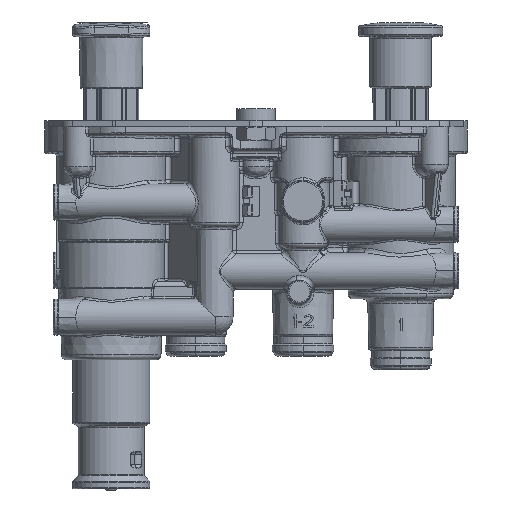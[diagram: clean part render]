
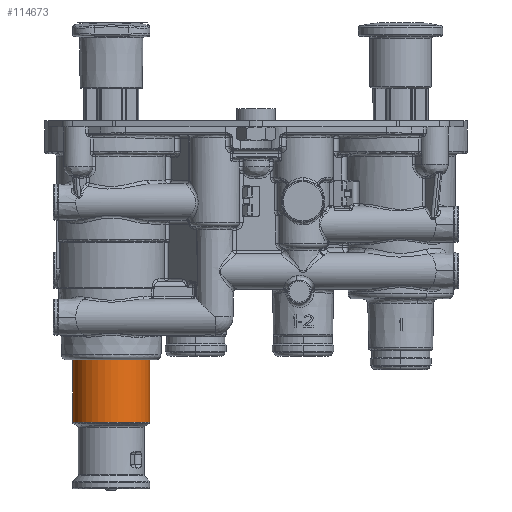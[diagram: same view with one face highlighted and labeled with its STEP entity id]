
A CAD part, front view. The second image highlights one B-rep face of the part: STEP entity #114673.
In plain terms, the highlighted cylindrical face has radius 16 mm (diameter 32 mm), a partial arc.
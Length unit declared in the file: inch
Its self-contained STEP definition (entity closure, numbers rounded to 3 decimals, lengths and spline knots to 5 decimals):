
#24946=DIRECTION('',(0.,0.,-1.));
#24947=VECTOR('',#24946,1.02156);
#24948=CARTESIAN_POINT('',(-2.99213,0.,-3.86575));
#24949=LINE('',#24948,#24947);
#24955=CARTESIAN_POINT('',(-2.3622,0.,-3.86575));
#24956=DIRECTION('',(0.,0.,-1.));
#24957=DIRECTION('',(1.,0.,0.));
#24958=AXIS2_PLACEMENT_3D('',#24955,#24956,#24957);
#24960=DIRECTION('',(0.,0.,-1.));
#24961=VECTOR('',#24960,1.02156);
#24962=CARTESIAN_POINT('',(-1.73228,0.,
-3.86575));
#24963=LINE('',#24962,#24961);
#24964=CARTESIAN_POINT('',(-2.3622,0.,-4.88731));
#24965=DIRECTION('',(0.,0.,-1.));
#24966=DIRECTION('',(1.,0.,0.));
#24967=AXIS2_PLACEMENT_3D('',#24964,#24965,#24966);
#58609=CARTESIAN_POINT('',(-2.99213,0.,
-4.88731));
#58611=VERTEX_POINT('',#58609);
#58613=CARTESIAN_POINT('',(-1.73228,0.,
-4.88731));
#58615=VERTEX_POINT('',#58613);
#62795=CARTESIAN_POINT('',(-2.99213,0.,-3.86575));
#62796=CARTESIAN_POINT('',(-1.73228,0.,
-3.86575));
#62797=VERTEX_POINT('',#62795);
#62798=VERTEX_POINT('',#62796);
#114661=CARTESIAN_POINT('',(-2.3622,0.,-3.05787));
#114662=DIRECTION('',(0.,0.,-1.));
#114663=DIRECTION('',(-1.,0.,0.));
#114664=AXIS2_PLACEMENT_3D('',#114661,#114662,#114663);
#114665=CYLINDRICAL_SURFACE('',#114664,0.62992);
#114666=ORIENTED_EDGE('',*,*,#114629,.F.);
#114667=ORIENTED_EDGE('',*,*,#114656,.T.);
#114669=ORIENTED_EDGE('',*,*,#114668,.T.);
#114670=ORIENTED_EDGE('',*,*,#114652,.F.);
#114671=EDGE_LOOP('',(#114666,#114667,#114669,#114670));
#114672=FACE_OUTER_BOUND('',#114671,.F.);
#24959=CIRCLE('',#24958,0.62992);
#24968=CIRCLE('',#24967,0.62992);
#114629=EDGE_CURVE('',#62798,#62797,#24959,.T.);
#114652=EDGE_CURVE('',#62797,#58611,#24949,.T.);
#114656=EDGE_CURVE('',#62798,#58615,#24963,.T.);
#114668=EDGE_CURVE('',#58615,#58611,#24968,.T.);
#114673=ADVANCED_FACE('',(#114672),#114665,.T.);
